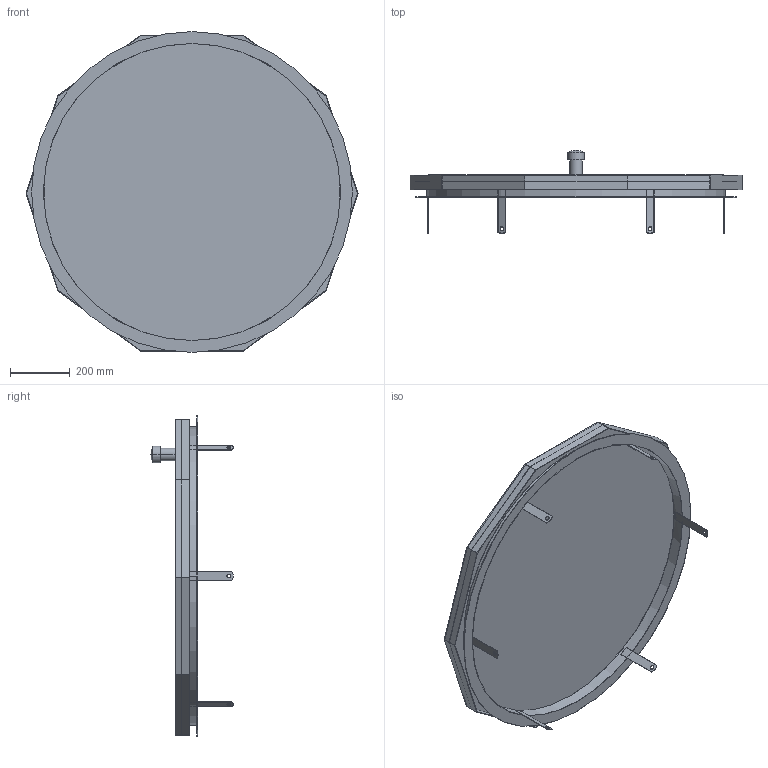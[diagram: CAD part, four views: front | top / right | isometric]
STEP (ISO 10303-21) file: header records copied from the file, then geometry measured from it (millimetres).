
FILE_DESCRIPTION((''),'2;1');
FILE_NAME('017_000107','2018-09-06T',('wj'),('HUBER SE'),'PRO/ENGINEER BY PARAMETRIC TECHNOLOGY CORPORATION, 2017170','PRO/ENGINEER BY PARAMETRIC TECHNOLOGY CORPORATION, 2017170','');
FILE_SCHEMA(('AUTOMOTIVE_DESIGN { 1 0 10303 214 1 1 1 1 }'));
Length unit declared in the file: millimetre
Products named in the file (1): 017_000107
Bounding box: 1112.45 x 277.25 x 1075 mm (x, y, z)
Volume: 3957127.4 mm3; surface area: 4518309 mm2
Topology: 2 solids, 3 shells, 99 faces, 268 edges, 177 vertices
Faces by surface type: plane 69, cylinder 28, sphere 2
Entity records: 3729 total; most frequent: CARTESIAN_POINT 553, DIRECTION 547, ORIENTED_EDGE 532, EDGE_CURVE 266, VECTOR 196, LINE 196, VERTEX_POINT 177, AXIS2_PLACEMENT_3D 174
